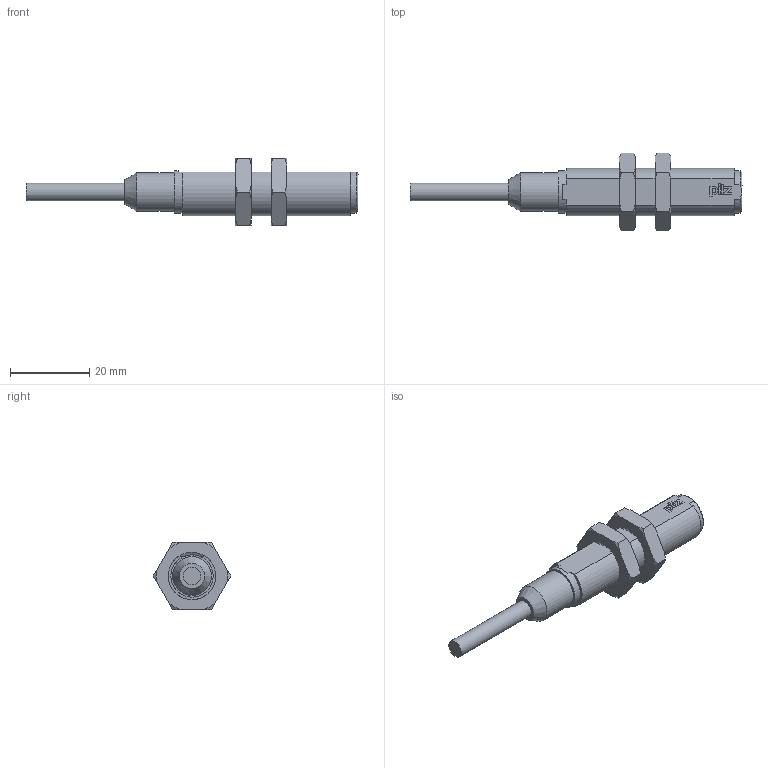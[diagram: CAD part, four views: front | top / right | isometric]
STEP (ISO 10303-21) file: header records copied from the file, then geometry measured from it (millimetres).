
FILE_DESCRIPTION((''),'2;1');
FILE_NAME('E:\Vault Daten\Projektordner\Sensoren\PSEN mag M12\Kundendaten\H302974_S_M12x59mm.stp','2011-08-31T10:07:23',('pschmucki'),(''),'Autodesk Inventor 2010','Autodesk Inventor 2010','');
FILE_SCHEMA(('CONFIG_CONTROL_DESIGN'));
Length unit declared in the file: millimetre
Products named in the file (1): H302974_PSENma_x.3_Sensor_Kundendaten
Bounding box: 84 x 19.63 x 17 mm (x, y, z)
Volume: 7349.2 mm3; surface area: 3377.8 mm2
Topology: 1 solids, 1 shells, 99 faces, 268 edges, 179 vertices
Faces by surface type: plane 56, cone 30, cylinder 10, bspline 3
Full cylindrical faces by diameter (mm): 0.667 x1, 4.5 x1, 9.8 x1, 10.7 x1
Entity records: 3015 total; most frequent: CARTESIAN_POINT 685, ORIENTED_EDGE 498, DIRECTION 443, EDGE_CURVE 249, VERTEX_POINT 171, AXIS2_PLACEMENT_3D 154, VECTOR 135, LINE 135
